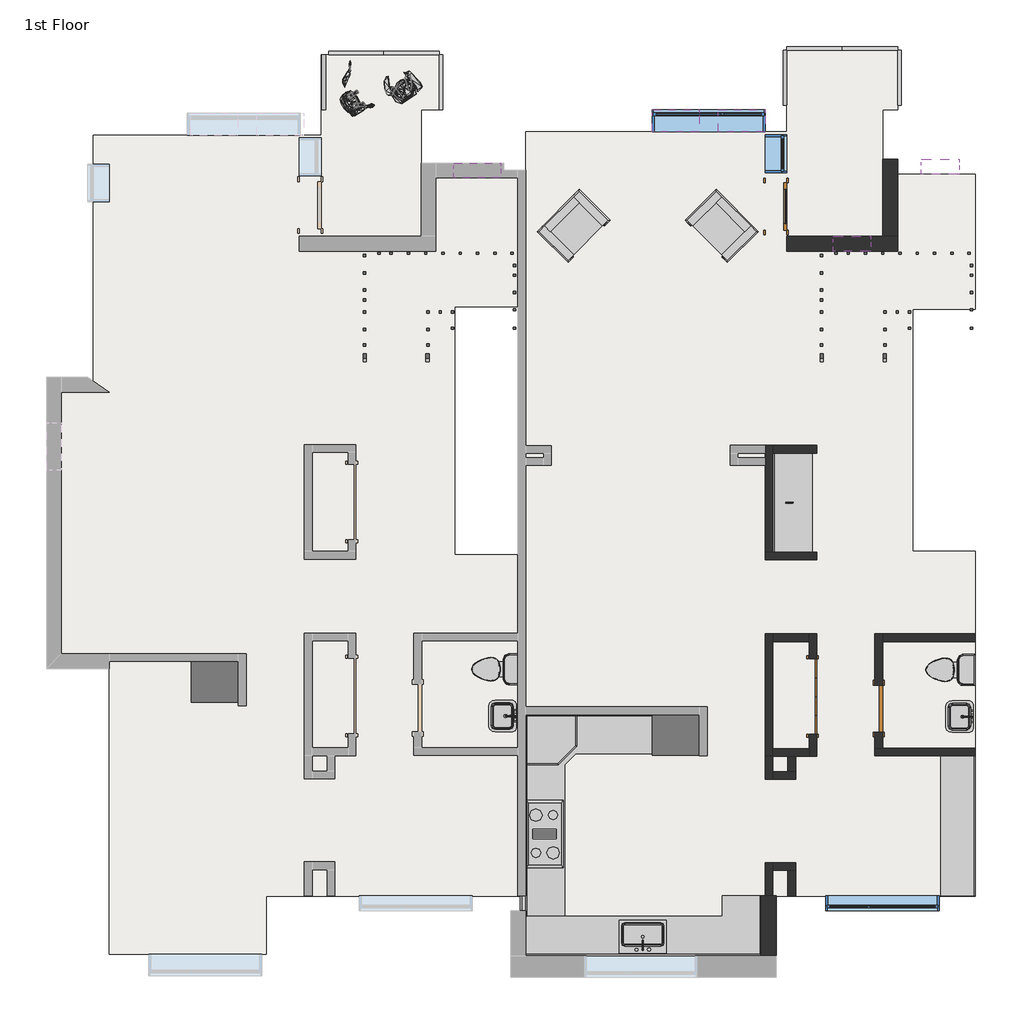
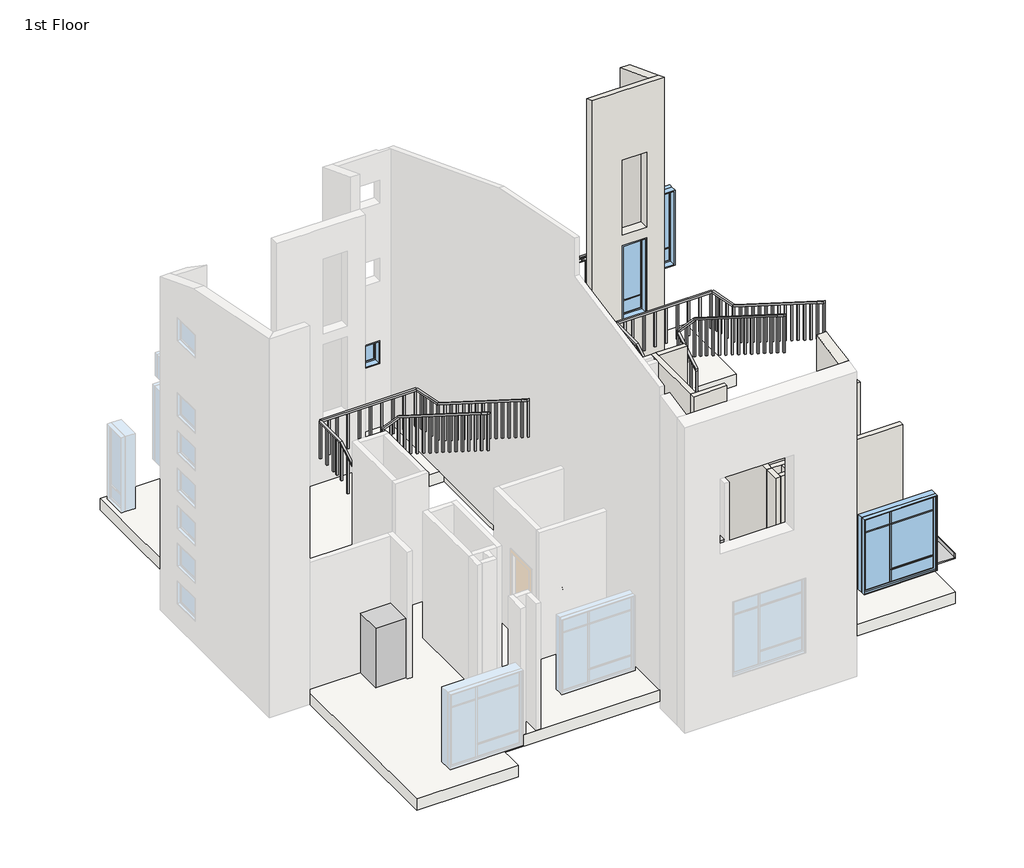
# One storey, part 2 of 2: 19 walls, 15 furniture elements, 11 proxies, 8 windows, 6 flow terminals, 4 railings, 3 doors, 2 geographic elements, 1 slab.
"""IFC4 building model written with IfcOpenShell, lengths in millimetres."""

from ifc_helpers import new_model, si_unit, origin, origin_with_axes, place, context, project, spatial, polyline, outline, extrude, faceted_brep, transform, mapped, element, save
from components import proxy_dee7c00b, proxy_442c6cfd, railing_1panel_square_2b676750, bifold_4_panel_87549022, door_f8acb57e, door_45ea9bca, flow_terminal_4af5d52b, flow_terminal_5184717d, flow_terminal_0aeb31e3, toilet_domestic_3d_toilet_domestic_3d_3687f172, toilet_domestic_3d_toilet_domestic_3d_183bbd19, furniture_f1e63d7b, furniture_c05eaed2, furniture_9c6ca97c, furniture_16018ffc, furniture_1f73a918, furniture_61266c35, furniture_aef3df76, furniture_a113b24a, furniture_f167ba72, corbu_armchair_corbu_armchair_d35303aa, corbu_armchair_corbu_armchair_9ac4339d, furniture_7ee350fa, counter_top_counter_top_2_d2a73151, furniture_c58d4479, furniture_23ed0d10, geographic_element_6e18f213, geographic_element_c4ab7724, geographic_element_af0ef37f, stair_railing_1_f50879bb, stair_railing_1_f4059a6a, stair_railing_1_292d214a, stair_railing_1_7da9380d, condo_apartment_window2_condo_apartment_window2_cbcd33dc, condo_apartment_window2_condo_apartment_window2_92945ac6, condo_apartment_window3_condo_apartment_window3_b97e7785, condo_apartment_window3_condo_apartment_window3_e6ba8bfb, condo_apartment_window5_condo_apartment_window5_5cb7fe43, condo_apartment_window5_condo_apartment_window5_b48a20a4

model = new_model("IFC4")

# Units and contexts
model_context = context("Model", 3, world=origin())
ifc_project = project(units=[si_unit("LENGTHUNIT", "METRE", prefix="MILLI")], contexts=[model_context])

# Site, building, storey
site = spatial("IfcSite", under=ifc_project)
building = spatial("IfcBuilding", under=site)
storey = spatial("IfcBuildingStorey", under=building, Name="1st Floor", Elevation=0.0)

# Proxies
placement = place(None, origin())
proxy_shape = proxy_dee7c00b(model_context)
element("IfcBuildingElementProxy", 1, Name="Cook Top-4 Unit : 40\" x 21\"", ObjectType="Cook Top-4 Unit : 40\" x 21\"", at=placement, inside=storey, context=model_context, shape_type="MappedRepresentation", body=[
    mapped(proxy_shape, transform((-3420.5497339, 47365.661508, 127.0), x_axis=(0.0, 1.0, 0.0), y_axis=(-1.0, 0.0, 0.0), z_axis=(0.0, 0.0, 1.0))),
])
proxy_2_shape = proxy_442c6cfd(model_context)
element("IfcBuildingElementProxy", 2, Name="Refrigerator : 30\" x 62\"", ObjectType="Refrigerator : 30\" x 62\"", at=placement, inside=storey, context=model_context, shape_type="MappedRepresentation", body=[
    mapped(proxy_2_shape, transform((-915.2519769, 49296.474008, 0.0), x_axis=(-1.0000000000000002, 0.0, 0.0), y_axis=(0.0, -1.0000000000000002, 0.0), z_axis=(0.0, 0.0, 1.0))),
])
element("IfcBuildingElementProxy", 3, Name="Refrigerator : 30\" x 62\"", ObjectType="Refrigerator : 30\" x 62\"", at=placement, inside=storey, context=model_context, shape_type="MappedRepresentation", body=[
    mapped(proxy_2_shape, transform((-8368.9088845, 50155.061508, 0.0), x_axis=(-1.0000000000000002, 0.0, 0.0), y_axis=(0.0, -1.0000000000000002, 0.0), z_axis=(0.0, 0.0, 1.0))),
])
railing_1panel_square_shape = railing_1panel_square_2b676750(model_context)
element("IfcBuildingElementProxy", 4, Name="railing(inprogress)3 : railing 1panel square", ObjectType="railing(inprogress)3 : railing 1panel square", at=placement, inside=storey, context=model_context, shape_type="MappedRepresentation", body=[
    mapped(railing_1panel_square_shape, transform((478.7500837, 59064.930258, 0.0), x_axis=(0.0, 1.0, 0.0), y_axis=(-1.0, 0.0, 0.0), z_axis=(0.0, 0.0, 1.0))),
])
element("IfcBuildingElementProxy", 5, Name="railing(inprogress)3 : railing 1panel square", ObjectType="railing(inprogress)3 : railing 1panel square", at=placement, inside=storey, context=model_context, shape_type="MappedRepresentation", body=[
    mapped(railing_1panel_square_shape, transform((1314.1776342, 60058.1491904, 0.0), x_axis=(1.0, 0.0, 0.0), y_axis=(0.0, 1.0, 0.0), z_axis=(0.0, 0.0, 1.0))),
])
element("IfcBuildingElementProxy", 6, Name="railing(inprogress)3 : railing 1panel square", ObjectType="railing(inprogress)3 : railing 1panel square", at=placement, inside=storey, context=model_context, shape_type="MappedRepresentation", body=[
    mapped(railing_1panel_square_shape, transform((415.4877661, 60058.1491904, 0.0), x_axis=(1.0, 0.0, 0.0), y_axis=(0.0, 1.0, 0.0), z_axis=(0.0, 0.0, 1.0))),
])
element("IfcBuildingElementProxy", 7, Name="railing(inprogress)3 : railing 1panel square", ObjectType="railing(inprogress)3 : railing 1panel square", at=placement, inside=storey, context=model_context, shape_type="MappedRepresentation", body=[
    mapped(railing_1panel_square_shape, transform((2307.3965666, 60121.411508, 0.0), x_axis=(0.0, -1.0, 0.0), y_axis=(1.0, 0.0, 0.0), z_axis=(0.0, 0.0, 1.0))),
])
element("IfcBuildingElementProxy", 8, Name="railing(inprogress)3 : railing 1panel square", ObjectType="railing(inprogress)3 : railing 1panel square", at=placement, inside=storey, context=model_context, shape_type="MappedRepresentation", body=[
    mapped(railing_1panel_square_shape, transform((-6979.7999163, 58992.111508, 0.0), x_axis=(0.0, 1.0, 0.0), y_axis=(-1.0, 0.0, 0.0), z_axis=(0.0, 0.0, 1.0))),
])
element("IfcBuildingElementProxy", 9, Name="railing(inprogress)3 : railing 1panel square", ObjectType="railing(inprogress)3 : railing 1panel square", at=placement, inside=storey, context=model_context, shape_type="MappedRepresentation", body=[
    mapped(railing_1panel_square_shape, transform((-6098.7086209, 59984.9554292, 0.0), x_axis=(1.0, 0.0, 0.0), y_axis=(0.0, 1.0, 0.0), z_axis=(0.0, 0.0, 1.0))),
])
element("IfcBuildingElementProxy", 10, Name="railing(inprogress)3 : railing 1panel square", ObjectType="railing(inprogress)3 : railing 1panel square", at=placement, inside=storey, context=model_context, shape_type="MappedRepresentation", body=[
    mapped(railing_1panel_square_shape, transform((-6990.0898709, 59985.3304404, 0.0), x_axis=(1.0, 0.0, 0.0), y_axis=(0.0, 1.0, 0.0), z_axis=(0.0, 0.0, 1.0))),
])
element("IfcBuildingElementProxy", 11, Name="railing(inprogress)3 : railing 1panel square", ObjectType="railing(inprogress)3 : railing 1panel square", at=placement, inside=storey, context=model_context, shape_type="MappedRepresentation", body=[
    mapped(railing_1panel_square_shape, transform((-5106.1185704, 60048.592758, 0.0), x_axis=(0.0, -1.0, 0.0), y_axis=(1.0, 0.0, 0.0), z_axis=(0.0, 0.0, 1.0))),
])

# Doors
bifold_4_panel_shape = bifold_4_panel_87549022(model_context)
element("IfcDoor", 12, ObjectType="Bifold - 4 panel : 48\" x  84\"", at=placement, inside=storey, context=model_context, shape_type="MappedRepresentation", body=[
    mapped(bifold_4_panel_shape, transform((921.5480231, 49588.199008, 0.0), x_axis=(0.0, -1.0, 0.0), y_axis=(1.0, 0.0, 0.0), z_axis=(0.0, 0.0, 1.0))),
])
door_shape = door_f8acb57e(model_context)
element("IfcDoor", 13, ObjectType="Single-Flush : 30\" x 84\"", at=placement, inside=storey, context=model_context, shape_type="MappedRepresentation", body=[
    mapped(door_shape, transform((1983.0480231, 49393.349008, 0.0), x_axis=(0.0, -1.0, 0.0), y_axis=(1.0, 0.0, 0.0), z_axis=(0.0, 0.0, 1.0))),
])
door_2_shape = door_45ea9bca(model_context)
element("IfcDoor", 14, ObjectType="Single-Glass 1 : 30\" x 84\"", at=placement, inside=storey, context=model_context, shape_type="MappedRepresentation", body=[
    mapped(door_2_shape, transform((323.0377661, 57512.186508, 0.0), x_axis=(0.0, -1.0, 0.0), y_axis=(1.0, 0.0, 0.0), z_axis=(0.0, 0.0, 1.0))),
])

# Flow terminals
flow_terminal_shape = flow_terminal_4af5d52b(model_context)
element("IfcFlowTerminal", 15, ObjectType="Sink Kitchen-Single : 30\" x 21\"", at=placement, inside=storey, context=model_context, shape_type="MappedRepresentation", body=[
    mapped(flow_terminal_shape, transform((-1816.3104933, 45705.2069091, 0.0), x_axis=(-1.0, 0.0, 0.0), y_axis=(0.0, -1.0, 0.0), z_axis=(0.0, 0.0, 1.0))),
])
flow_terminal_2_shape = flow_terminal_5184717d(model_context)
element("IfcFlowTerminal", 16, ObjectType="Sink Vanity-Round : 19\" x 19\"", at=placement, inside=storey, context=model_context, shape_type="MappedRepresentation", body=[
    mapped(flow_terminal_2_shape, transform((730.9106166, 52627.0858794, 0.0), x_axis=(0.0, 1.0, 0.0), y_axis=(-1.0, 0.0, 0.0), z_axis=(0.0, 0.0, 1.0))),
])
flow_terminal_3_shape = flow_terminal_0aeb31e3(model_context)
element("IfcFlowTerminal", 17, ObjectType="Sink Vanity-Square : 24\" x 19\"", at=placement, inside=storey, context=model_context, shape_type="MappedRepresentation", body=[
    mapped(flow_terminal_3_shape, transform((3335.502622, 49277.5564681, 0.0), x_axis=(0.0, -1.0000000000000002, 0.0), y_axis=(1.0000000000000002, 0.0, 0.0), z_axis=(0.0, 0.0, 1.0))),
])
element("IfcFlowTerminal", 18, ObjectType="Sink Vanity-Square : 24\" x 19\"", at=placement, inside=storey, context=model_context, shape_type="MappedRepresentation", body=[
    mapped(flow_terminal_3_shape, transform((-4054.720135, 49287.5564681, 0.0), x_axis=(0.0, -1.0000000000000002, 0.0), y_axis=(1.0000000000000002, 0.0, 0.0), z_axis=(0.0, 0.0, 1.0))),
])
toilet_domestic_3d_toilet_domestic_3d_shape = toilet_domestic_3d_toilet_domestic_3d_3687f172(model_context)
toilet_domestic_3d_toilet_domestic_3d_2_shape = toilet_domestic_3d_toilet_domestic_3d_183bbd19(model_context)
element("IfcFlowTerminal", 19, ObjectType="Toilet-Domestic-3D : Toilet-Domestic-3D", at=placement, inside=storey, context=model_context, shape_type="MappedRepresentation", body=[
    mapped(toilet_domestic_3d_toilet_domestic_3d_shape, transform((3052.7019958, 50019.999008, 0.0), x_axis=(0.0, -0.9999999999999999, 0.0), y_axis=(0.9999999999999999, 0.0, 0.0), z_axis=(0.0, 0.0, 1.0))),
    mapped(toilet_domestic_3d_toilet_domestic_3d_2_shape, transform((3052.7019958, 50019.999008, 0.0), x_axis=(0.0, -0.9999999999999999, 0.0), y_axis=(0.9999999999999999, 0.0, 0.0), z_axis=(0.0, 0.0, 1.0))),
])
element("IfcFlowTerminal", 20, ObjectType="Toilet-Domestic-3D : Toilet-Domestic-3D", at=placement, inside=storey, context=model_context, shape_type="MappedRepresentation", body=[
    mapped(toilet_domestic_3d_toilet_domestic_3d_shape, transform((-4290.9065508, 50029.586508, 0.0), x_axis=(0.0, -0.9999999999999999, 0.0), y_axis=(0.9999999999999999, 0.0, 0.0), z_axis=(0.0, 0.0, 1.0))),
    mapped(toilet_domestic_3d_toilet_domestic_3d_2_shape, transform((-4290.9065508, 50029.586508, 0.0), x_axis=(0.0, -0.9999999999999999, 0.0), y_axis=(0.9999999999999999, 0.0, 0.0), z_axis=(0.0, 0.0, 1.0))),
])

# Furniture
furniture_shape = furniture_f1e63d7b(model_context)
element("IfcFurniture", 21, ObjectType="Base Cabinet-Single Door & Drawer : 12\"", at=placement, inside=storey, context=model_context, shape_type="MappedRepresentation", body=[
    mapped(furniture_shape, transform((92.0502661, 46180.3867129, 0.0), x_axis=(0.0, -1.0, 0.0), y_axis=(1.0, 0.0, 0.0), z_axis=(0.0, 0.0, 1.0))),
])
furniture_2_shape = furniture_c05eaed2(model_context)
element("IfcFurniture", 22, ObjectType="Base Cabinet-Single Door & Drawer : 24\"", at=placement, inside=storey, context=model_context, shape_type="MappedRepresentation", body=[
    mapped(furniture_2_shape, transform((-3810.8519769, 48159.7238031, 0.0), x_axis=(0.0, 1.0, 0.0), y_axis=(-1.0, 0.0, 0.0), z_axis=(0.0, 0.0, 1.0))),
])
furniture_3_shape = furniture_9c6ca97c(model_context)
element("IfcFurniture", 23, ObjectType="Base Cabinet-Double Door & 2 Drawer : 33\"", at=placement, inside=storey, context=model_context, shape_type="MappedRepresentation", body=[
    mapped(furniture_3_shape, transform((-3810.8519769, 46388.0738031, 0.0), x_axis=(0.0, 1.0, 0.0), y_axis=(-1.0, 0.0, 0.0), z_axis=(0.0, 0.0, 1.0))),
])
furniture_4_shape = furniture_16018ffc(model_context)
element("IfcFurniture", 24, ObjectType="Base Cabinet-Double Door & 2 Drawer : 33\"", at=placement, inside=storey, context=model_context, shape_type="MappedRepresentation", body=[
    mapped(furniture_4_shape, transform((-936.3374388, 45398.061508, 0.0), x_axis=(1.0, 0.0, 0.0), y_axis=(0.0, 1.0, 0.0), z_axis=(0.0, 0.0, 1.0))),
])
furniture_5_shape = furniture_1f73a918(model_context)
element("IfcFurniture", 25, ObjectType="Base Cabinet-Double Door & 2 Drawer : 48\"", at=placement, inside=storey, context=model_context, shape_type="MappedRepresentation", body=[
    mapped(furniture_5_shape, transform((-2305.5896818, 49363.186508, 0.0), x_axis=(1.0, 0.0, 0.0), y_axis=(0.0, 1.0, 0.0), z_axis=(0.0, 0.0, 1.0))),
])
furniture_6_shape = furniture_61266c35(model_context)
element("IfcFurniture", 26, ObjectType="Base Cabinet-Corner Unit-Angled : 36\"", at=placement, inside=storey, context=model_context, shape_type="MappedRepresentation", body=[
    mapped(furniture_6_shape, transform((-3284.114272, 49397.661508, 0.0), x_axis=(-1.0, 0.0, 0.0), y_axis=(0.0, -1.0, 0.0), z_axis=(0.0, 0.0, 1.0))),
])
furniture_7_shape = furniture_aef3df76(model_context)
element("IfcFurniture", 27, ObjectType="Base Cabinet-Double Door Sink Unit : 36\"", at=placement, inside=storey, context=model_context, shape_type="MappedRepresentation", body=[
    mapped(furniture_7_shape, transform((-2803.2374388, 45398.061508, 0.0), x_axis=(1.0, 0.0, 0.0), y_axis=(0.0, 1.0, 0.0), z_axis=(0.0, 0.0, 1.0))),
])
furniture_8_shape = furniture_a113b24a(model_context)
element("IfcFurniture", 28, ObjectType="Base Cabinet-Double Door Sink Unit : 39\"", at=placement, inside=storey, context=model_context, shape_type="MappedRepresentation", body=[
    mapped(furniture_8_shape, transform((-1850.7374388, 45398.061508, 0.0), x_axis=(1.0, 0.0, 0.0), y_axis=(0.0, 1.0, 0.0), z_axis=(0.0, 0.0, 1.0))),
])
furniture_9_shape = furniture_f167ba72(model_context)
element("IfcFurniture", 29, ObjectType="Base Cabinet-Double Door Sink Unit : 42\"", at=placement, inside=storey, context=model_context, shape_type="MappedRepresentation", body=[
    mapped(furniture_9_shape, transform((-3810.8519769, 47340.5738031, 0.0), x_axis=(0.0, 1.0, 0.0), y_axis=(-1.0, 0.0, 0.0), z_axis=(0.0, 0.0, 1.0))),
])
corbu_armchair_corbu_armchair_shape = corbu_armchair_corbu_armchair_d35303aa(model_context)
element("IfcFurniture", 30, ObjectType="Corbu armchair : Corbu armchair", at=placement, inside=storey, context=model_context, shape_type="MappedRepresentation", body=[
    mapped(corbu_armchair_corbu_armchair_shape, transform((-1291.5308032, 57272.7136172, 0.0), x_axis=(0.7071067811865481, -0.7071067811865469, 0.0), y_axis=(0.7071067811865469, 0.7071067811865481, 0.0), z_axis=(0.0, 0.0, 1.0))),
])
corbu_armchair_corbu_armchair_2_shape = corbu_armchair_corbu_armchair_9ac4339d(model_context)
element("IfcFurniture", 31, ObjectType="Corbu armchair : Corbu armchair", at=placement, inside=storey, context=model_context, shape_type="MappedRepresentation", body=[
    mapped(corbu_armchair_corbu_armchair_2_shape, transform((-2215.2836251, 57272.7136172, 0.0), x_axis=(-0.7071067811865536, -0.7071067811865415, 0.0), y_axis=(0.7071067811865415, -0.7071067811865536, 0.0), z_axis=(0.0, 0.0, 1.0))),
])
furniture_10_shape = furniture_7ee350fa(model_context)
element("IfcFurniture", 32, ObjectType="Counter Top : 24\" Depth", at=placement, inside=storey, context=model_context, shape_type="MappedRepresentation", body=[
    mapped(furniture_10_shape, transform((273.7877661, 53124.0738031, 0.0), x_axis=(0.0, 1.0, 0.0), y_axis=(-1.0, 0.0, 0.0), z_axis=(0.0, 0.0, 1.0))),
])
counter_top_counter_top_2_shape = counter_top_counter_top_2_d2a73151(model_context)
element("IfcFurniture", 33, ObjectType="Counter Top : Counter Top 2", at=placement, inside=storey, context=model_context, shape_type="MappedRepresentation", body=[
    mapped(counter_top_counter_top_2_shape, transform((3547.3980231, 47429.2992129, 0.0), x_axis=(0.0, -1.0, 0.0), y_axis=(1.0, 0.0, 0.0), z_axis=(0.0, 0.0, 1.0))),
])
furniture_11_shape = furniture_c58d4479(model_context)
element("IfcFurniture", 34, ObjectType="Counter Top-L Shaped 2 : 24\" Depth", at=placement, inside=storey, context=model_context, shape_type="MappedRepresentation", body=[
    mapped(furniture_11_shape, transform((-2526.4749388, 49296.061508, 0.0), x_axis=(1.0, 0.0, 0.0), y_axis=(0.0, 1.0, 0.0), z_axis=(0.0, 0.0, 1.0))),
])
furniture_12_shape = furniture_23ed0d10(model_context)
element("IfcFurniture", 35, ObjectType="Counter Top-L Shaped w Sink Hole : 24\" Depth", at=placement, inside=storey, context=model_context, shape_type="MappedRepresentation", body=[
    mapped(furniture_12_shape, transform((-1114.762029, 45398.061508, 0.0), x_axis=(-1.0, 0.0, 0.0), y_axis=(0.0, -1.0, 0.0), z_axis=(0.0, 0.0, 1.0))),
])

# Geographic elements
geographic_element_shape = geographic_element_6e18f213(model_context)
geographic_element_2_shape = geographic_element_c4ab7724(model_context)
element("IfcGeographicElement", 36, ObjectType="Woman05[1] : Woman05[1]", at=placement, inside=storey, context=model_context, shape_type="MappedRepresentation", body=[
    mapped(geographic_element_shape, transform((-6625.8057314, 59039.9945926, 0.0), x_axis=(0.8660254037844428, 0.4999999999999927, 0.0), y_axis=(-0.4999999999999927, 0.8660254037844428, 0.0), z_axis=(0.0, 0.0, 1.0))),
    mapped(geographic_element_2_shape, transform((-6625.8057314, 59039.9945926, 0.0), x_axis=(0.8660254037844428, 0.4999999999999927, 0.0), y_axis=(-0.4999999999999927, 0.8660254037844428, 0.0), z_axis=(0.0, 0.0, 1.0))),
])
geographic_element_3_shape = geographic_element_af0ef37f(model_context)
element("IfcGeographicElement", 37, ObjectType="Man10[1] : Man10[1]", at=placement, inside=storey, context=model_context, shape_type="MappedRepresentation", body=[
    mapped(geographic_element_3_shape, transform((-5556.8187185, 59320.4548171, 0.0), x_axis=(-0.3420201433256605, 0.9396926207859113, 0.0), y_axis=(-0.9396926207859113, -0.3420201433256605, 0.0), z_axis=(0.0, 0.0, 1.0))),
])

# Railings
stair_railing_1_shape = stair_railing_1_f50879bb(model_context)
element("IfcRailing", 38, ObjectType="Stair Railing 1", at=placement, inside=storey, context=model_context, shape_type="MappedRepresentation", body=[
    mapped(stair_railing_1_shape, transform((0.0, 0.0, 0.0), x_axis=(1.0, 0.0, 0.0), y_axis=(0.0, 1.0, 0.0), z_axis=(0.0, 0.0, 1.0))),
])
stair_railing_1_2_shape = stair_railing_1_f4059a6a(model_context)
element("IfcRailing", 39, ObjectType="Stair Railing 1", at=placement, inside=storey, context=model_context, shape_type="MappedRepresentation", body=[
    mapped(stair_railing_1_2_shape, transform((0.0, 0.0, 0.0), x_axis=(1.0, 0.0, 0.0), y_axis=(0.0, 1.0, 0.0), z_axis=(0.0, 0.0, 1.0))),
])
stair_railing_1_3_shape = stair_railing_1_292d214a(model_context)
element("IfcRailing", 40, ObjectType="Stair Railing 1", at=placement, inside=storey, context=model_context, shape_type="MappedRepresentation", body=[
    mapped(stair_railing_1_3_shape, transform((0.0, 0.0, 0.0), x_axis=(1.0, 0.0, 0.0), y_axis=(0.0, 1.0, 0.0), z_axis=(0.0, 0.0, 1.0))),
])
stair_railing_1_4_shape = stair_railing_1_7da9380d(model_context)
element("IfcRailing", 41, ObjectType="Stair Railing 1", at=placement, inside=storey, context=model_context, shape_type="MappedRepresentation", body=[
    mapped(stair_railing_1_4_shape, transform((0.0, 0.0, 0.0), x_axis=(1.0, 0.0, 0.0), y_axis=(0.0, 1.0, 0.0), z_axis=(0.0, 0.0, 1.0))),
])

# Slab
element("IfcSlab", 42, ObjectType="Generic - 12\"", at=placement, inside=storey, context=model_context, shape_type="Brep", body=[
    faceted_brep([(-7033.8372339, 58665.924008, -304.8), (-7033.8372339, 59966.042758, -304.8), (-5125.4062528, 59966.042758, -304.8), (-5125.4062528, 59074.111508, -304.8), (-5417.0911158, 59074.111508, -304.8), (-5417.0911158, 57973.4989967, -304.8), (-3726.9372339, 57973.4989967, -304.8), (-3726.9372339, 58723.449008, -304.8), (499.2502661, 58723.449008, -304.8), (499.2502661, 60096.0114967, -304.8), (2288.1088842, 60096.0114967, -304.8), (2288.1088842, 59074.111508, -304.8), (2049.9838842, 59074.111508, -304.8), (2049.9838842, 58030.6489967, -304.8), (3547.3980231, 58030.6489967, -304.8), (3547.3980231, 55848.486508, -304.8), (2531.3980231, 55848.486508, -304.8), (2531.3980231, 51939.349008, -304.8), (3547.3980231, 51939.349008, -304.8), (3547.3980231, 46359.4005538, -304.8), (85.7002661, 46359.4005538, -304.8), (85.7002661, 45398.061508, -304.8), (-3726.9372341, 45398.061508, -304.8), (-3726.9372336, 46362.5755538, -304.8), (-7916.7122339, 46362.5755538, -304.8), (-7916.7122339, 45422.311508, -304.8), (-10457.0497339, 45422.311508, -304.8), (-10457.0497339, 50278.886508, -304.8), (-10809.4747339, 50278.886508, -304.8), (-11231.3122339, 50278.886508, -304.8), (-11231.3122339, 54507.18762, -304.8), (-10809.4747339, 54507.18762, -304.8), (-10717.3997339, 54507.18762, -304.8), (-10717.3997339, 58665.924008, -304.8), (-10457.0497339, 58665.924008, -304.8), (-4866.7622339, 51891.461508, -304.8), (-3726.9372339, 51891.461508, -304.8), (-3726.9372339, 55880.2364967, -304.8), (-4866.7622339, 55880.2364967, -304.8), (-7033.8372339, 58665.924008, 0.0), (-10457.0497339, 58665.924008, 0.0), (-10717.3997339, 58665.924008, 0.0), (-10717.3997339, 54685.4452777, 0.0), (-10717.3997339, 54507.18762, 0.0), (-11231.3122339, 54507.18762, 0.0), (-11231.3122339, 50278.886508, 0.0), (-10457.0497339, 50278.886508, 0.0), (-10457.0497339, 45422.311508, 0.0), (-7916.7122339, 45422.311508, 0.0), (-7916.7122339, 46362.5755538, 0.0), (-3726.9372336, 46362.5755538, 0.0), (-3726.9372341, 45398.061508, 0.0), (85.7002661, 45398.061508, 0.0), (85.7002661, 46359.4005538, 0.0), (3547.3980231, 46359.4005538, 0.0), (3547.3980231, 51939.349008, 0.0), (2531.3980231, 51939.349008, 0.0), (2531.3980231, 55848.486508, 0.0), (3547.3980231, 55848.486508, 0.0), (3547.3980231, 58030.6489967, 0.0), (2049.9838842, 58030.6489967, 0.0), (2049.9838842, 59074.111508, 0.0), (2288.1088842, 59074.111508, 0.0), (2288.1088842, 60096.0114967, 0.0), (499.2502661, 60096.0114967, 0.0), (499.2502661, 58723.449008, 0.0), (-3726.9372339, 58723.449008, 0.0), (-3726.9372339, 57973.4989967, 0.0), (-5417.0911158, 57973.4989967, 0.0), (-5417.0911158, 59074.111508, 0.0), (-5125.4062528, 59074.111508, 0.0), (-5125.4062528, 59966.042758, 0.0), (-7033.8372339, 59966.042758, 0.0), (-4866.7622339, 51891.461508, 0.0), (-4866.7622339, 55880.2364967, 0.0), (-3726.9372339, 55880.2364967, 0.0), (-3726.9372339, 51891.461508, 0.0), (-10457.0497339, 50278.886508, -28.575), (-10717.3997339, 54507.18762, -28.575)], [[[0, 1, 2, 3, 4, 5, 6, 7, 8, 9, 10, 11, 12, 13, 14, 15, 16, 17, 18, 19, 20, 21, 22, 23, 24, 25, 26, 27, 28, 29, 30, 31, 32, 33, 34], [35, 36, 37, 38]], [[39, 40, 41, 42, 43, 44, 45, 46, 47, 48, 49, 50, 51, 52, 53, 54, 55, 56, 57, 58, 59, 60, 61, 62, 63, 64, 65, 66, 67, 68, 69, 70, 71, 72], [73, 74, 75, 76]], [[1, 0, 39, 72]], [[2, 1, 72, 71]], [[3, 2, 71, 70]], [[4, 3, 70, 69]], [[5, 4, 69, 68]], [[6, 5, 68, 67]], [[7, 6, 67, 66]], [[8, 7, 66, 65]], [[9, 8, 65, 64]], [[10, 9, 64, 63]], [[11, 10, 63, 62]], [[12, 11, 62, 61]], [[13, 12, 61, 60]], [[14, 13, 60, 59]], [[15, 14, 59, 58]], [[16, 15, 58, 57]], [[17, 16, 57, 56]], [[18, 17, 56, 55]], [[19, 18, 55, 54]], [[20, 19, 54, 53]], [[21, 20, 53, 52]], [[22, 21, 52, 51]], [[23, 22, 51, 50]], [[24, 23, 50, 49]], [[25, 24, 49, 48]], [[26, 25, 48, 47]], [[27, 26, 47, 46, 77]], [[29, 28, 27, 77, 46, 45]], [[30, 29, 45, 44]], [[32, 31, 30, 44, 43, 78]], [[33, 32, 78, 43, 42, 41]], [[0, 34, 33, 41, 40, 39]], [[36, 35, 73, 76]], [[37, 36, 76, 75]], [[38, 37, 75, 74]], [[35, 38, 74, 73]]]),
])

# Walls
element("IfcWall", 43, ObjectType="Exterior - Stucco", at=placement, inside=storey, context=model_context, shape_type="Brep", body=[
    faceted_brep([(499.2502661, 56788.286508, 0.0), (2291.2838842, 56788.286508, 0.0), (2291.2838842, 56788.286508, 7726.4713734), (499.2502661, 56788.286508, 7726.4713734), (1856.3088842, 56788.286508, 3632.2), (1856.3088842, 56788.286508, 1651.0), (1246.7088842, 56788.286508, 1651.0), (1246.7088842, 56788.286508, 3632.2), (1856.3088842, 56788.286508, 5892.8), (1856.3088842, 56788.286508, 3911.6), (1246.7088842, 56788.286508, 3911.6), (1246.7088842, 56788.286508, 5892.8), (499.2502661, 57029.586508, 0.0), (499.2502661, 57029.586508, 7633.5776082), (2049.9838842, 57029.586508, 7633.5776082), (2291.2838842, 57029.586508, 7633.5776082), (2291.2838842, 57029.586508, 0.0), (2049.9838842, 57029.586508, 0.0), (1856.3088842, 57029.586508, 3632.2), (1246.7088842, 57029.586508, 3632.2), (1246.7088842, 57029.586508, 1651.0), (1856.3088842, 57029.586508, 1651.0), (1856.3088842, 57029.586508, 5892.8), (1246.7088842, 57029.586508, 5892.8), (1246.7088842, 57029.586508, 3911.6), (1856.3088842, 57029.586508, 3911.6)], [[[0, 1, 2, 3], [4, 5, 6, 7], [8, 9, 10, 11]], [[12, 13, 14, 15, 16, 17], [18, 19, 20, 21], [22, 23, 24, 25]], [[1, 0, 12, 17, 16]], [[2, 1, 16, 15]], [[0, 3, 13, 12]], [[3, 2, 15, 14, 13]], [[5, 4, 18, 21]], [[6, 5, 21, 20]], [[7, 6, 20, 19]], [[4, 7, 19, 18]], [[9, 8, 22, 25]], [[10, 9, 25, 24]], [[11, 10, 24, 23]], [[8, 11, 23, 22]]]),
])
element("IfcWall", 44, ObjectType="Exterior - Stucco", at=placement, inside=storey, context=model_context, shape_type="Brep", body=[
    faceted_brep([(2291.2838842, 57029.586508, 0.0), (2291.2838842, 58271.9489967, 0.0), (2291.2838842, 58271.9489967, 7155.302725), (2291.2838842, 58030.6489967, 7248.1964902), (2291.2838842, 57029.586508, 7633.5776082), (2049.9838842, 57029.586508, 0.0), (2049.9838842, 57029.586508, 7633.5776082), (2049.9838842, 58271.9489967, 7155.302725), (2049.9838842, 58271.9489967, 0.0)], [[[0, 1, 2, 3, 4]], [[5, 6, 7, 8]], [[1, 0, 5, 8]], [[2, 1, 8, 7]], [[0, 4, 6, 5]], [[4, 3, 2, 7, 6]]]),
])
element("IfcWall", 45, ObjectType="Exterior - Stucco", at=placement, inside=storey, context=model_context, shape_type="Brep", body=[
    faceted_brep([(327.0002661, 45398.061508, -304.8), (327.0002661, 46121.2755538, -304.8), (327.0002661, 46362.5755538, -304.8), (327.0002661, 46362.5755538, 8006.2042381), (327.0002661, 46121.2755538, 7960.2821444), (327.0002661, 45398.061508, 7822.6464081), (85.7002661, 45398.061508, -304.8), (85.7002661, 45398.061508, 7822.6464081), (85.7002661, 46362.5755538, 8006.2042381), (85.7002661, 46362.5755538, -304.8)], [[[0, 1, 2, 3, 4, 5]], [[6, 7, 8, 9]], [[2, 1, 0, 6, 9]], [[3, 2, 9, 8]], [[0, 5, 7, 6]], [[5, 4, 3, 8, 7]]]),
])
element("IfcWall", 46, ObjectType="Interior - 4 7/8\" Partition (1-hr)", at=placement, inside=storey, context=model_context, shape_type="Brep", body=[
    faceted_brep([(3547.3980231, 48753.586508, 0.0), (2044.9605231, 48753.586508, 0.0), (1921.1355231, 48753.586508, 0.0), (1921.1355231, 48753.586508, 3048.0), (2044.9605231, 48753.586508, 3048.0), (3547.3980231, 48753.586508, 3048.0), (3547.3980231, 48629.761508, 0.0), (3547.3980231, 48629.761508, 3048.0), (1921.1355231, 48629.761508, 3048.0), (1921.1355231, 48629.761508, 0.0)], [[[0, 1, 2, 3, 4, 5]], [[6, 7, 8, 9]], [[2, 1, 0, 6, 9]], [[3, 2, 9, 8]], [[0, 5, 7, 6]], [[5, 4, 3, 8, 7]]]),
])
element("IfcWall", 47, ObjectType="Interior - 4 7/8\" Partition (1-hr)", at=placement, inside=storey, context=model_context, shape_type="Brep", body=[
    faceted_brep([(2044.9605231, 48753.586508, 0.0), (2044.9605231, 49012.349008, 0.0), (2044.9605231, 49012.349008, 2133.6), (2044.9605231, 49774.349008, 2133.6), (2044.9605231, 49774.349008, 0.0), (2044.9605231, 50476.786508, 0.0), (2044.9605231, 50600.611508, 0.0), (2044.9605231, 50600.611508, 3048.0), (2044.9605231, 50476.786508, 3048.0), (2044.9605231, 48753.586508, 3048.0), (1921.1355231, 49012.349008, 2133.6), (1921.1355231, 49012.349008, 0.0), (1921.1355231, 48753.586508, 0.0), (1921.1355231, 48753.586508, 3048.0), (1921.1355231, 50600.611508, 3048.0), (1921.1355231, 50600.611508, 0.0), (1921.1355231, 49774.349008, 0.0), (1921.1355231, 49774.349008, 2133.6)], [[[0, 1, 2, 3, 4, 5, 6, 7, 8, 9]], [[10, 11, 12, 13, 14, 15, 16, 17]], [[12, 11, 1, 0]], [[16, 15, 6, 5, 4]], [[7, 6, 15, 14]], [[0, 9, 13, 12]], [[9, 8, 7, 14, 13]], [[2, 1, 11, 10]], [[3, 2, 10, 17]], [[4, 3, 17, 16]]]),
])
element("IfcWall", 48, ObjectType="Interior - 4 7/8\" Partition (1-hr)", at=placement, inside=storey, context=model_context, shape_type="SweptSolid", body=[
    extrude(outline(polyline([(3547.3980231, 50476.786508), (2044.9605231, 50476.786508), (2044.9605231, 50600.611508), (3547.3980231, 50600.611508), (3547.3980231, 50476.786508)])), origin_with_axes(), (0.0, 0.0, 1.0), 3048.0),
])
element("IfcWall", 49, ObjectType="Interior - 4 7/8\" Partition (1-hr)", at=placement, inside=storey, context=model_context, shape_type="Brep", body=[
    faceted_brep([(983.0480231, 51923.611508, 0.0), (273.7877661, 51923.611508, 0.0), (149.9627661, 51923.611508, 0.0), (149.9627661, 51923.611508, 3048.0), (273.7877661, 51923.611508, 3048.0), (983.0480231, 51923.611508, 3048.0), (983.0480231, 51799.786508, 0.0), (983.0480231, 51799.786508, 3048.0), (149.9627661, 51799.786508, 3048.0), (149.9627661, 51799.786508, 0.0)], [[[0, 1, 2, 3, 4, 5]], [[6, 7, 8, 9]], [[2, 1, 0, 6, 9]], [[0, 5, 7, 6]], [[3, 2, 9, 8]], [[5, 4, 3, 8, 7]]]),
])
element("IfcWall", 50, ObjectType="Interior - 4 7/8\" Partition (1-hr)", at=placement, inside=storey, context=model_context, shape_type="Brep", body=[
    faceted_brep([(273.7877661, 51923.611508, 0.0), (273.7877661, 53525.42512, 0.0), (273.7877661, 53649.25012, 0.0), (273.7877661, 53649.25012, 3048.0), (273.7877661, 53525.42512, 3048.0), (273.7877661, 51923.611508, 3048.0), (149.9627661, 51923.611508, 0.0), (149.9627661, 51923.611508, 3048.0), (149.9627661, 53325.42512, 3048.0), (149.9627661, 53449.25012, 3048.0), (149.9627661, 53525.42512, 3048.0), (149.9627661, 53649.25012, 3048.0), (149.9627661, 53649.25012, 0.0), (149.9627661, 53525.42512, 0.0), (149.9627661, 53449.25012, 0.0), (149.9627661, 53325.42512, 0.0)], [[[0, 1, 2, 3, 4, 5]], [[6, 7, 8, 9, 10, 11, 12, 13, 14, 15]], [[2, 1, 0, 6, 15, 14, 13, 12]], [[3, 2, 12, 11]], [[0, 5, 7, 6]], [[5, 4, 3, 11, 10, 9, 8, 7]]]),
])
element("IfcWall", 51, ObjectType="Interior - 4 7/8\" Partition (1-hr)", at=placement, inside=storey, context=model_context, shape_type="SweptSolid", body=[
    extrude(outline(polyline([(983.0480231, 53525.42512), (273.7877661, 53525.42512), (273.7877661, 53649.25012), (983.0480231, 53649.25012), (983.0480231, 53525.42512)])), origin_with_axes(), (0.0, 0.0, 1.0), 3048.0),
])
element("IfcWall", 52, ObjectType="Interior - 4 7/8\" Partition (1-hr)", at=placement, inside=storey, context=model_context, shape_type="Brep", body=[
    faceted_brep([(859.6355231, 48978.599008, 2133.6), (859.6355231, 48978.599008, 0.0), (859.6355231, 48747.349008, 0.0), (859.6355231, 48623.524008, 0.0), (859.6355231, 48623.524008, 3048.0), (859.6355231, 48747.349008, 3048.0), (859.6355231, 50476.786508, 3048.0), (859.6355231, 50600.611508, 3048.0), (859.6355231, 50600.611508, 0.0), (859.6355231, 50476.786508, 0.0), (859.6355231, 50197.799008, 0.0), (859.6355231, 50197.799008, 2133.6), (983.4605231, 48623.524008, 0.0), (983.4605231, 48978.599008, 0.0), (983.4605231, 48978.599008, 2133.6), (983.4605231, 50197.799008, 2133.6), (983.4605231, 50197.799008, 0.0), (983.4605231, 50600.611508, 0.0), (983.4605231, 50600.611508, 3048.0), (983.4605231, 48623.524008, 3048.0)], [[[0, 1, 2, 3, 4, 5, 6, 7, 8, 9, 10, 11]], [[12, 13, 14, 15, 16, 17, 18, 19]], [[3, 2, 1, 13, 12]], [[10, 9, 8, 17, 16]], [[8, 7, 18, 17]], [[4, 3, 12, 19]], [[7, 6, 5, 4, 19, 18]], [[14, 13, 1, 0]], [[15, 14, 0, 11]], [[16, 15, 11, 10]]]),
])
element("IfcWall", 53, ObjectType="Interior - 4 7/8\" Partition (1-hr)", at=placement, inside=storey, context=model_context, shape_type="Brep", body=[
    faceted_brep([(149.9627661, 50600.611508, 0.0), (149.9627661, 48623.524008, 0.0), (149.9627661, 48623.524008, 3048.0), (149.9627661, 50600.611508, 3048.0), (273.7877661, 50600.611508, 0.0), (273.7877661, 50600.611508, 3048.0), (273.7877661, 50476.786508, 3048.0), (273.7877661, 48747.349008, 3048.0), (273.7877661, 48623.524008, 3048.0), (273.7877661, 48623.524008, 0.0), (273.7877661, 48747.349008, 0.0), (273.7877661, 50476.786508, 0.0)], [[[0, 1, 2, 3]], [[4, 5, 6, 7, 8, 9, 10, 11]], [[1, 0, 4, 11, 10, 9]], [[0, 3, 5, 4]], [[2, 1, 9, 8]], [[3, 2, 8, 7, 6, 5]]]),
])
element("IfcWall", 54, ObjectType="Interior - 4 7/8\" Partition (1-hr)", at=placement, inside=storey, context=model_context, shape_type="SweptSolid", body=[
    extrude(outline(polyline([(859.6355231, 50476.786508), (273.7877661, 50476.786508), (273.7877661, 50600.611508), (859.6355231, 50600.611508), (859.6355231, 50476.786508)])), origin_with_axes(), (0.0, 0.0, 1.0), 3048.0),
])
element("IfcWall", 55, ObjectType="Interior - 4 7/8\" Partition (1-hr)", at=placement, inside=storey, context=model_context, shape_type="SweptSolid", body=[
    extrude(outline(polyline([(859.6355231, 48623.524008), (273.7877661, 48623.524008), (273.7877661, 48747.349008), (859.6355231, 48747.349008), (859.6355231, 48623.524008)])), origin_with_axes(), (0.0, 0.0, 1.0), 3048.0),
])
element("IfcWall", 56, ObjectType="Interior - 4 7/8\" Partition (1-hr)", at=placement, inside=storey, context=model_context, shape_type="Brep", body=[
    faceted_brep([(149.9627661, 48623.524008, 0.0), (149.9627661, 48247.699008, 0.0), (149.9627661, 48247.699008, 3048.0), (149.9627661, 48623.524008, 3048.0), (273.7877661, 48623.524008, 0.0), (273.7877661, 48623.524008, 3048.0), (273.7877661, 48371.524008, 3048.0), (273.7877661, 48247.699008, 3048.0), (273.7877661, 48247.699008, 0.0), (273.7877661, 48371.524008, 0.0)], [[[0, 1, 2, 3]], [[4, 5, 6, 7, 8, 9]], [[1, 0, 4, 9, 8]], [[2, 1, 8, 7]], [[0, 3, 5, 4]], [[3, 2, 7, 6, 5]]]),
])
element("IfcWall", 57, ObjectType="Interior - 4 7/8\" Partition (1-hr)", at=placement, inside=storey, context=model_context, shape_type="Brep", body=[
    faceted_brep([(273.7877661, 48247.699008, 0.0), (640.0877661, 48247.699008, 0.0), (640.0877661, 48247.699008, 3048.0), (273.7877661, 48247.699008, 3048.0), (273.7877661, 48371.524008, 0.0), (273.7877661, 48371.524008, 3048.0), (516.2627661, 48371.524008, 3048.0), (640.0877661, 48371.524008, 3048.0), (640.0877661, 48371.524008, 0.0), (516.2627661, 48371.524008, 0.0)], [[[0, 1, 2, 3]], [[4, 5, 6, 7, 8, 9]], [[1, 0, 4, 9, 8]], [[2, 1, 8, 7]], [[0, 3, 5, 4]], [[3, 2, 7, 6, 5]]]),
])
element("IfcWall", 58, ObjectType="Interior - 4 7/8\" Partition (1-hr)", at=placement, inside=storey, context=model_context, shape_type="SweptSolid", body=[
    extrude(outline(polyline([(640.0877661, 48623.524008), (640.0877661, 48371.524008), (516.2627661, 48371.524008), (516.2627661, 48623.524008), (640.0877661, 48623.524008)])), origin_with_axes(), (0.0, 0.0, 1.0), 3048.0),
])
element("IfcWall", 59, ObjectType="Interior - 4 7/8\" Partition (1-hr)", at=placement, inside=storey, context=model_context, shape_type="Brep", body=[
    faceted_brep([(273.6610557, 46362.5755538, 0.0), (273.6610557, 46778.474008, 0.0), (273.6610557, 46902.299008, 0.0), (273.6610557, 46902.299008, 3048.0), (273.6610557, 46778.474008, 3048.0), (273.6610557, 46362.5755538, 3048.0), (149.8360557, 46362.5755538, 0.0), (149.8360557, 46362.5755538, 3048.0), (149.8360557, 46902.299008, 3048.0), (149.8360557, 46902.299008, 0.0)], [[[0, 1, 2, 3, 4, 5]], [[6, 7, 8, 9]], [[2, 1, 0, 6, 9]], [[3, 2, 9, 8]], [[0, 5, 7, 6]], [[5, 4, 3, 8, 7]]]),
])
element("IfcWall", 60, ObjectType="Interior - 4 7/8\" Partition (1-hr)", at=placement, inside=storey, context=model_context, shape_type="Brep", body=[
    faceted_brep([(273.6610557, 46778.474008, 0.0), (516.2627661, 46778.474008, 0.0), (640.0877661, 46778.474008, 0.0), (640.0877661, 46778.474008, 3048.0), (516.2627661, 46778.474008, 3048.0), (273.6610557, 46778.474008, 3048.0), (273.6610557, 46902.299008, 0.0), (273.6610557, 46902.299008, 3048.0), (640.0877661, 46902.299008, 3048.0), (640.0877661, 46902.299008, 0.0)], [[[0, 1, 2, 3, 4, 5]], [[6, 7, 8, 9]], [[2, 1, 0, 6, 9]], [[3, 2, 9, 8]], [[0, 5, 7, 6]], [[5, 4, 3, 8, 7]]]),
])
element("IfcWall", 61, ObjectType="Interior - 4 7/8\" Partition (1-hr)", at=placement, inside=storey, context=model_context, shape_type="SweptSolid", body=[
    extrude(outline(polyline([(516.2627661, 46362.5755538), (516.2627661, 46778.474008), (640.0877661, 46778.474008), (640.0877661, 46362.5755538), (516.2627661, 46362.5755538)])), origin_with_axes(), (0.0, 0.0, 1.0), 3048.0),
])

# Windows
condo_apartment_window2_condo_apartment_window2_shape = condo_apartment_window2_condo_apartment_window2_cbcd33dc(model_context)
element("IfcWindow", 62, ObjectType="Condo - Apartment Window2 : Condo - Apartment Window2", at=placement, inside=storey, context=model_context, shape_type="MappedRepresentation", body=[
    mapped(condo_apartment_window2_condo_apartment_window2_shape, transform((-728.2622339, 58899.661508, -292.1), x_axis=(1.0, 0.0, 0.0), y_axis=(0.0, 1.0, 0.0), z_axis=(0.0, 0.0, 1.0))),
])
condo_apartment_window2_condo_apartment_window2_2_shape = condo_apartment_window2_condo_apartment_window2_92945ac6(model_context)
element("IfcWindow", 63, ObjectType="Condo - Apartment Window2 : Condo - Apartment Window2", at=placement, inside=storey, context=model_context, shape_type="MappedRepresentation", body=[
    mapped(condo_apartment_window2_condo_apartment_window2_2_shape, transform((2006.4480231, 46241.9255538, 317.5), x_axis=(-1.0, 0.0, 0.0), y_axis=(0.0, -1.0, 0.0), z_axis=(0.0, 0.0, 1.0))),
])
condo_apartment_window3_condo_apartment_window3_shape = condo_apartment_window3_condo_apartment_window3_b97e7785(model_context)
element("IfcWindow", 64, ObjectType="Condo - Apartment Window3 : Condo - Apartment Window3", at=placement, inside=storey, context=model_context, shape_type="MappedRepresentation", body=[
    mapped(condo_apartment_window3_condo_apartment_window3_shape, transform((1589.6088842, 56908.936508, 1358.9), x_axis=(1.0, 0.0, 0.0), y_axis=(0.0, 1.0, 0.0), z_axis=(0.0, 0.0, 1.0))),
])
element("IfcWindow", 65, ObjectType="Condo - Apartment Window3 : Condo - Apartment Window3", at=placement, inside=storey, context=model_context, shape_type="MappedRepresentation", body=[
    mapped(condo_apartment_window3_condo_apartment_window3_shape, transform((3018.0507974, 58151.2989967, 1358.9), x_axis=(1.0, 0.0, 0.0), y_axis=(0.0, 1.0, 0.0), z_axis=(0.0, 0.0, 1.0))),
])
condo_apartment_window3_condo_apartment_window3_2_shape = condo_apartment_window3_condo_apartment_window3_e6ba8bfb(model_context)
element("IfcWindow", 66, ObjectType="Condo - Apartment Window3 : Condo - Apartment Window3", at=placement, inside=storey, context=model_context, shape_type="MappedRepresentation", body=[
    mapped(condo_apartment_window3_condo_apartment_window3_2_shape, transform((323.0377661, 58404.361508, 622.3), x_axis=(0.0, 1.0, 0.0), y_axis=(-1.0, 0.0, 0.0), z_axis=(0.0, 0.0, 1.0))),
])
condo_apartment_window5_condo_apartment_window5_shape = condo_apartment_window5_condo_apartment_window5_5cb7fe43(model_context)
element("IfcWindow", 67, ObjectType="Condo - Apartment Window5 : Condo - Apartment Window5", at=placement, inside=storey, context=model_context, shape_type="MappedRepresentation", body=[
    mapped(condo_apartment_window5_condo_apartment_window5_shape, transform((-194.8622339, 58899.661508, 977.9), x_axis=(1.0, 0.0, 0.0), y_axis=(0.0, 1.0, 0.0), z_axis=(0.0, 0.0, 1.0))),
])
element("IfcWindow", 68, ObjectType="Condo - Apartment Window5 : Condo - Apartment Window5", at=placement, inside=storey, context=model_context, shape_type="MappedRepresentation", body=[
    mapped(condo_apartment_window5_condo_apartment_window5_shape, transform((-1261.6622339, 58899.661508, 977.9), x_axis=(1.0, 0.0, 0.0), y_axis=(0.0, 1.0, 0.0), z_axis=(0.0, 0.0, 1.0))),
])
condo_apartment_window5_condo_apartment_window5_2_shape = condo_apartment_window5_condo_apartment_window5_b48a20a4(model_context)
element("IfcWindow", 69, ObjectType="Condo - Apartment Window5 : Condo - Apartment Window5", at=placement, inside=storey, context=model_context, shape_type="MappedRepresentation", body=[
    mapped(condo_apartment_window5_condo_apartment_window5_2_shape, transform((-4468.2997339, 58094.1489967, 165.1), x_axis=(1.0, 0.0, 0.0), y_axis=(0.0, 1.0, 0.0), z_axis=(0.0, 0.0, 1.0))),
])

save(model, "model.ifc")
